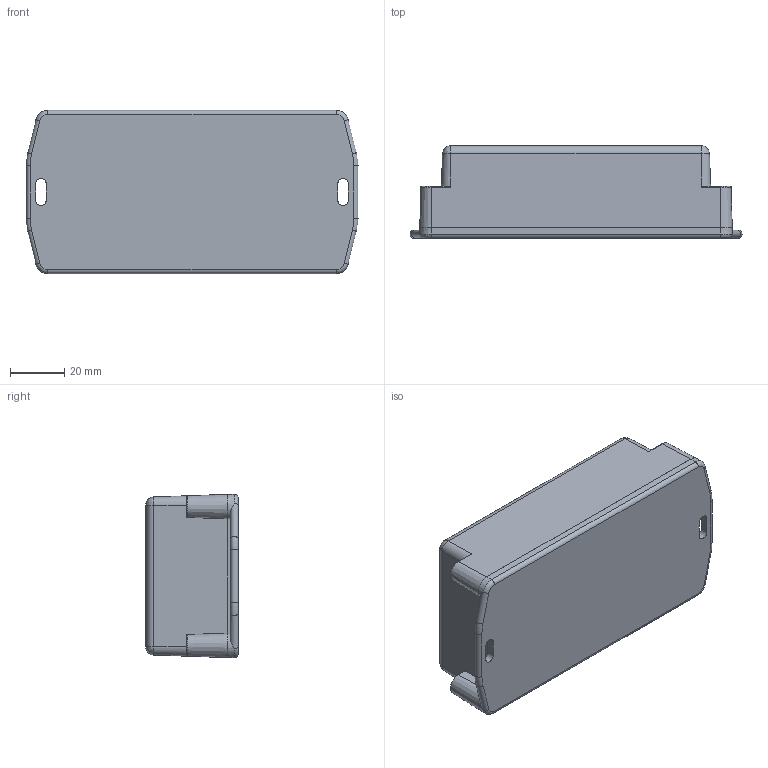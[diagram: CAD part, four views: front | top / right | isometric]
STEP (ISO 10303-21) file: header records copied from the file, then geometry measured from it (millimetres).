
FILE_DESCRIPTION (( 'STEP AP203' ), '1' );
FILE_NAME ('PM22.STEP', '2015-06-08T13:47:04', ( 'admin' ), ( 'Hewlett-Packard Company' ), 'SwSTEP 2.0', 'SolidWorks 2014', '' );
FILE_SCHEMA (( 'CONFIG_CONTROL_DESIGN' ));
Length unit declared in the file: millimetre
Products named in the file (3): PM22
Assembly tree (2 placements, depth 2):
  PM22
    PM22
    PM22
Bounding box: 122 x 34 x 60 mm (x, y, z)
Volume: 57281.1 mm3; surface area: 50016 mm2
Topology: 2 solids, 2 shells, 243 faces, 576 edges, 366 vertices
Faces by surface type: plane 87, cylinder 70, cone 50, bspline 20, torus 16
Entity records: 8300 total; most frequent: CARTESIAN_POINT 2337, DIRECTION 1215, ORIENTED_EDGE 1152, EDGE_CURVE 576, AXIS2_PLACEMENT_3D 472, VERTEX_POINT 366, EDGE_LOOP 284, LINE 271
